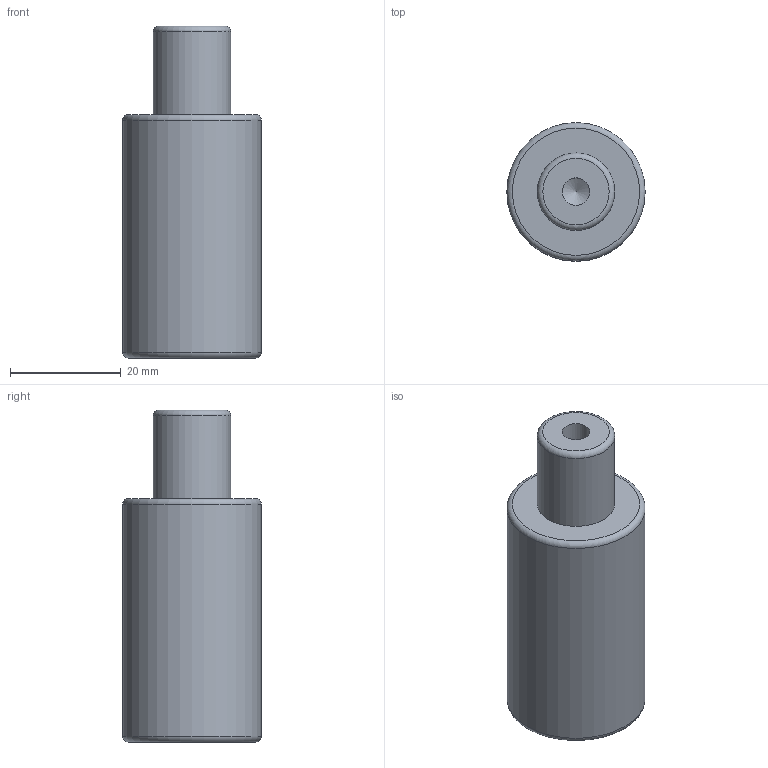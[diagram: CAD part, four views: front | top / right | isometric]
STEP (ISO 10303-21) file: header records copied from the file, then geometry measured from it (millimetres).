
FILE_DESCRIPTION(/* description */ (''),/* implementation_level */ '2;1');
FILE_NAME(/* name */ 'NV5-SMLX.25x15.stp',/* time_stamp */ '2018-08-31T16:08:38+02:00',/* author */ (''),/* organization */ (''),/* preprocessor_version */ 'ST-DEVELOPER v16',/* originating_system */ 'SIEMENS PLM Software NX 10.0',/* authorisation */ '');
FILE_SCHEMA (('AUTOMOTIVE_DESIGN { 1 0 10303 214 3 1 1 1 }'));
Length unit declared in the file: millimetre
Products named in the file (1): NV5-SMLX.25x15
Bounding box: 25 x 25 x 60 mm (x, y, z)
Volume: 23567.6 mm3; surface area: 5405.7 mm2
Topology: 1 solids, 1 shells, 12 faces, 24 edges, 15 vertices
Faces by surface type: cylinder 4, torus 3, plane 3, cone 2
Full cylindrical faces by diameter (mm): 5 x2, 14 x1, 25 x1
Entity records: 266 total; most frequent: DIRECTION 48, CARTESIAN_POINT 37, FACE_BOUND 24, AXIS2_PLACEMENT_3D 24, EDGE_LOOP 22, ORIENTED_EDGE 22, VERTEX_POINT 13, ADVANCED_FACE 12
